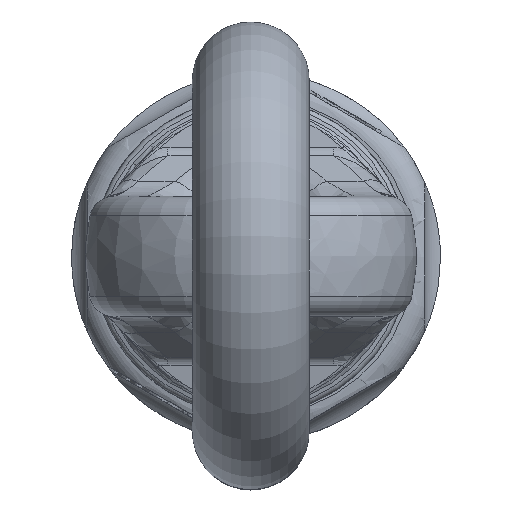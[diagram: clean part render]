
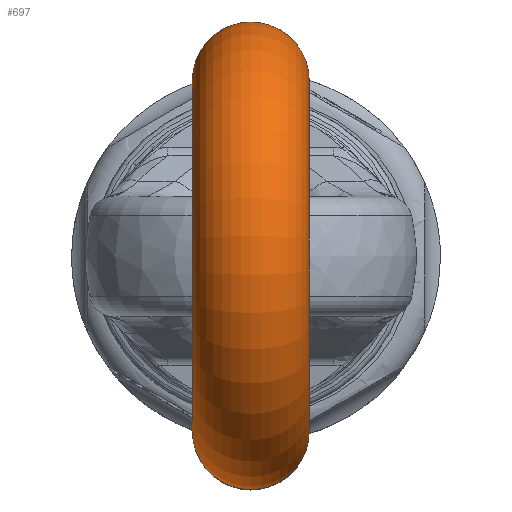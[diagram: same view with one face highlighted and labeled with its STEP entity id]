
A CAD part, top view. The second image highlights one B-rep face of the part: STEP entity #697.
In plain terms, the highlighted toroidal (fillet/blend) face has major radius 67.5 mm and minor radius 22.5 mm.
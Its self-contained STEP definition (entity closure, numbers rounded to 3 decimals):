
#235=FACE_BOUND('',#1257,.T.);
#236=FACE_BOUND('',#1258,.T.);
#436=TOROIDAL_SURFACE('',#4889,67.5,22.5);
#535=CIRCLE('',#4887,22.5);
#536=CIRCLE('',#4888,22.5);
#697=ADVANCED_FACE('',(#235,#236),#436,.T.);
#1257=EDGE_LOOP('',(#2452));
#1258=EDGE_LOOP('',(#2453));
#2452=ORIENTED_EDGE('',*,*,#3987,.F.);
#2453=ORIENTED_EDGE('',*,*,#3988,.F.);
#3462=VERTEX_POINT('',#8068);
#3463=VERTEX_POINT('',#8070);
#3987=EDGE_CURVE('',#3462,#3462,#535,.T.);
#3988=EDGE_CURVE('',#3463,#3463,#536,.T.);
#4887=AXIS2_PLACEMENT_3D('',#8067,#5376,#5377);
#4888=AXIS2_PLACEMENT_3D('',#8069,#5378,#5379);
#4889=AXIS2_PLACEMENT_3D('',#8071,#5380,#5381);
#5376=DIRECTION('',(0.,0.,-1.));
#5377=DIRECTION('',(-1.,0.,0.));
#5378=DIRECTION('',(0.,0.,-1.));
#5379=DIRECTION('',(-1.,0.,0.));
#5380=DIRECTION('',(-1.,0.,0.));
#5381=DIRECTION('',(0.,-1.,0.));
#8067=CARTESIAN_POINT('',(0.,-67.5,206.233));
#8068=CARTESIAN_POINT('',(-22.5,-67.5,206.233));
#8069=CARTESIAN_POINT('',(0.,67.5,206.233));
#8070=CARTESIAN_POINT('',(-22.5,67.5,206.233));
#8071=CARTESIAN_POINT('',(0.,0.,206.233));
